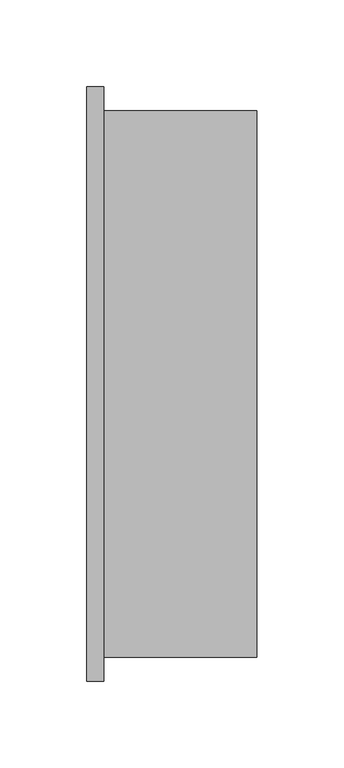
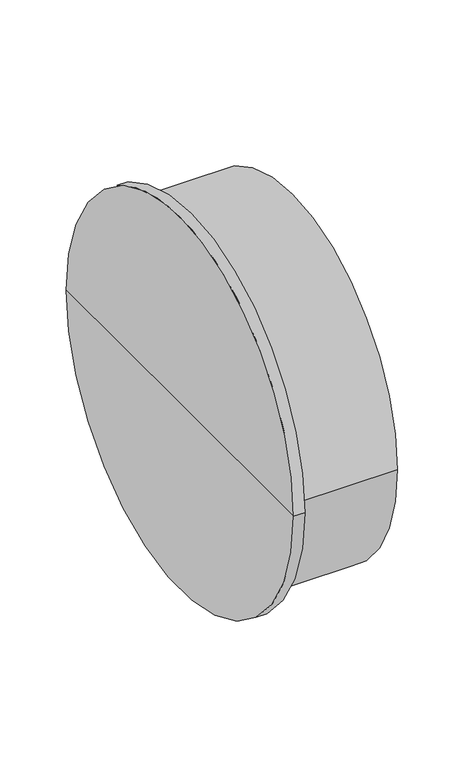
"""IFC4 building model written with IfcOpenShell, lengths in millimetres: pipe fitting geometry, OSMA_KG2000_PPKGM : Hrdlová zátka."""

from ifc_helpers import new_model, si_unit, frame, origin, place, context, project, spatial, circle_curve, source, transform, mapped, element, save
from ifc_brep_helpers import plane_surface, cylinder_surface, advanced_brep


def pipe_fitting_8f42d98d(model_context):
    return source(origin(), model_context, "Body", "AdvancedBrep", [
        advanced_brep(
        [(98.0, -157.5, 0.0), (98.0, 157.5, 0.0), (98.0, 0.0, 0.0), (9.7, -157.5, 0.0), (9.7, 157.5, 0.0), (9.7, -171.2, 0.0), (9.7, 171.2, 0.0), (0.0, -171.2, 0.0), (0.0, 171.2, 0.0), (0.0, 0.0, 0.0)],
        [
            (0, 1, circle_curve(frame((98.0, 0.0, 0.0), z_axis=(1.0, 0.0, 0.0), x_axis=(0.0, 1.0, 0.0)), 157.5)),
            (1, 2),
            (2, 0),
            (1, 0, circle_curve(frame((98.0, 0.0, 0.0), z_axis=(1.0, 0.0, 0.0), x_axis=(0.0, 1.0, 0.0)), 157.5)),
            (3, 4, circle_curve(frame((9.7, 0.0, 0.0), z_axis=(1.0, 0.0, 0.0), x_axis=(0.0, 1.0, 0.0)), 157.5)),
            (4, 1),
            (0, 3),
            (4, 3, circle_curve(frame((9.7, 0.0, 0.0), z_axis=(1.0, 0.0, 0.0), x_axis=(0.0, 1.0, 0.0)), 157.5)),
            (5, 6, circle_curve(frame((9.7, 0.0, 0.0), z_axis=(1.0, 0.0, 0.0), x_axis=(0.0, 1.0, 0.0)), 171.2)),
            (6, 4),
            (3, 5),
            (6, 5, circle_curve(frame((9.7, 0.0, 0.0), z_axis=(1.0, 0.0, 0.0), x_axis=(0.0, 1.0, 0.0)), 171.2)),
            (7, 8, circle_curve(frame((0.0, 0.0, 0.0), z_axis=(1.0, 0.0, 0.0), x_axis=(0.0, 1.0, 0.0)), 171.2)),
            (8, 6),
            (5, 7),
            (8, 7, circle_curve(frame((0.0, 0.0, 0.0), z_axis=(1.0, 0.0, 0.0), x_axis=(0.0, 1.0, 0.0)), 171.2)),
            (9, 8),
            (7, 9),
        ],
        [
            plane_surface(frame((98.0, 0.0, 0.0), z_axis=(1.0, 0.0, 0.0), x_axis=(0.0, 1.0, 0.0))),
            cylinder_surface(frame((2043.0, 0.0, 0.0), z_axis=(-1.0, 0.0, 0.0), x_axis=(0.0, 1.0, 0.0)), 157.5),
            plane_surface(frame((9.7, 0.0, 0.0), z_axis=(1.0, 0.0, 0.0), x_axis=(0.0, 1.0, 0.0))),
            cylinder_surface(frame((2043.0, 0.0, 0.0), z_axis=(-1.0, 0.0, 0.0), x_axis=(0.0, 1.0, 0.0)), 171.2),
            plane_surface(frame((0.0, 0.0, 0.0), z_axis=(-1.0, 0.0, 0.0), x_axis=(0.0, 1.0, 0.0))),
        ],
        [
            (0, [[1, 2, 3]]),
            (0, [[4, -3, -2]]),
            (1, [[5, 6, -1, 7]]),
            (1, [[8, -7, -4, -6]]),
            (2, [[9, 10, -5, 11]]),
            (2, [[12, -11, -8, -10]]),
            (3, [[13, 14, -9, 15]]),
            (3, [[16, -15, -12, -14]]),
            (4, [[17, -13, 18]]),
            (4, [[-18, -16, -17]]),
        ],
    ),
    ])


if __name__ == "__main__":
    model = new_model("IFC4")
    model_context = context("Model", 3, world=origin())
    ifc_project = project(units=[si_unit("LENGTHUNIT", "METRE", prefix="MILLI")], contexts=[model_context])
    site = spatial("IfcSite", under=ifc_project)
    building = spatial("IfcBuilding", under=site)
    placement = place(None, origin())
    pipe_fitting_shape = pipe_fitting_8f42d98d(model_context)
    element("IfcPipeFitting", 1, ObjectType="OSMA_KG2000_PPKGM : Hrdlová zátka", at=placement, inside=building, context=model_context, shape_type="MappedRepresentation", body=[
        mapped(pipe_fitting_shape, transform((0.0, 0.0, 0.0), x_axis=(1.0, 0.0, 0.0), y_axis=(0.0, 1.0, 0.0), z_axis=(0.0, 0.0, 1.0))),
    ])
    save(model, "model.ifc")
